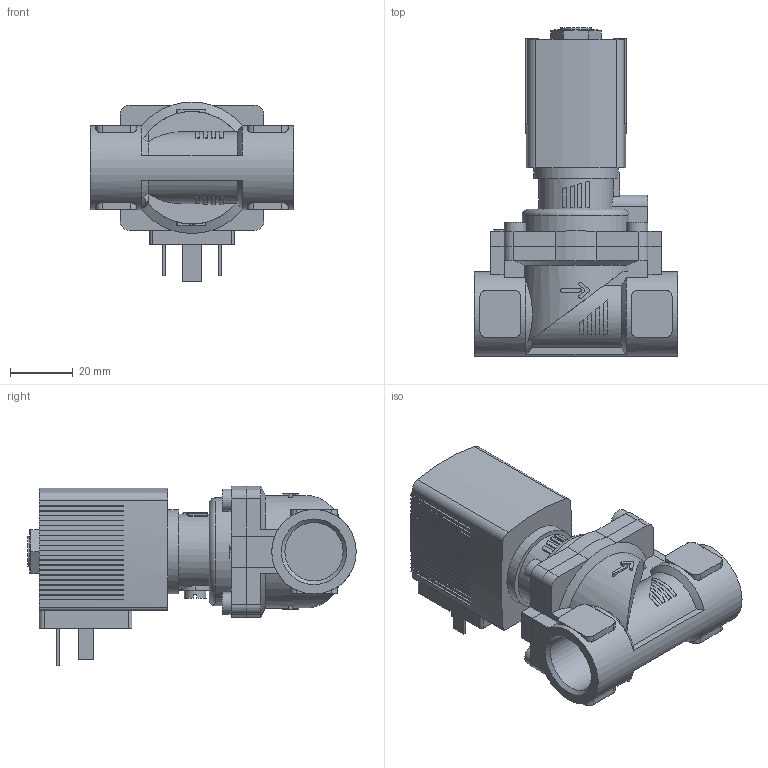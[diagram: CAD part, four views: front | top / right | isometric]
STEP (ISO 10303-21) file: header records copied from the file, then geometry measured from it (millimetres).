
FILE_DESCRIPTION(/* description */ ('STEP AP214'),/* implementation_level */ '2;1');
FILE_NAME(/* name */ '6281-373033-2_2-Way_Solenoid_Valve__Servo-assisted__General_Purpose',/* time_stamp */ '2024-06-17T16:43:04+02:00',/* author */ ('License CC BY-ND 4.0'),/* organization */ ('CADENAS'),/* preprocessor_version */ 'ST-DEVELOPER v19.3',/* originating_system */ 'PARTsolutions',/* authorisation */ ' ');
FILE_SCHEMA (('AUTOMOTIVE_DESIGN {1 0 10303 214 3 1 1}'));
Length unit declared in the file: millimetre
Products named in the file (4): 6281-373033-2/2-Way Solenoid Valve, Servo-assisted, General Purpose; 5281ev132VA2/2-Wege-Magnetventil mit Servomembran-Deckel 42HA15 ; 6213-13G1/2VA-Gehaeuse-; AC10ex-5OO-Plan-Coil
Assembly tree (3 placements, depth 2):
  6281-373033-2/2-Way Solenoid Valve, Servo-assisted, General Purpose
    5281ev132VA2/2-Wege-Magnetventil mit Servomembran-Deckel 42HA15 
    6213-13G1/2VA-Gehaeuse-
    AC10ex-5OO-Plan-Coil
Bounding box: 65 x 105 x 57.5 mm (x, y, z)
Volume: 120534.3 mm3; surface area: 30334.3 mm2
Topology: 3 solids, 3 shells, 553 faces, 1517 edges, 1000 vertices
Faces by surface type: plane 446, cylinder 91, cone 15, torus 1
Full cylindrical faces by diameter (mm): 2.013 x1, 7 x5, 9.74 x1, 18.631 x2, 27 x2
Entity records: 20198 total; most frequent: CARTESIAN_POINT 3303, ORIENTED_EDGE 2986, DIRECTION 2870, EDGE_CURVE 1493, LINE 1092, VECTOR 1092, VERTEX_POINT 993, AXIS2_PLACEMENT_3D 889
